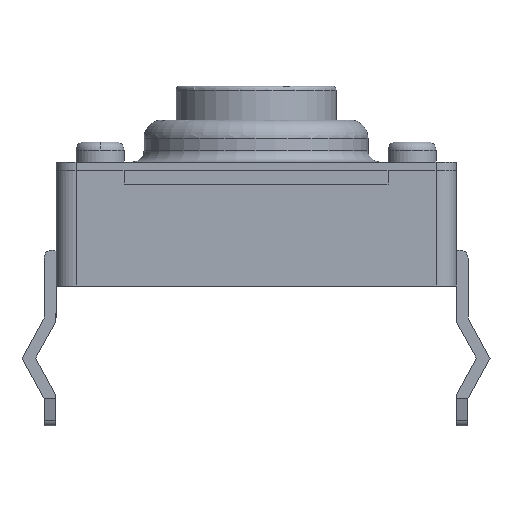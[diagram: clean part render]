
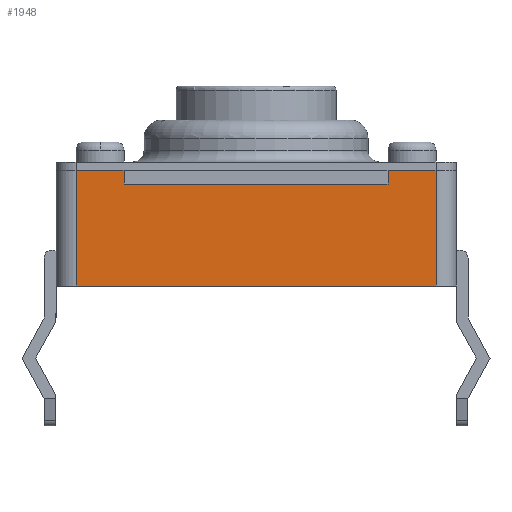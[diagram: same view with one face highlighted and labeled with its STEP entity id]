
A CAD part, front view. The second image highlights one B-rep face of the part: STEP entity #1948.
In plain terms, the highlighted planar face has unit normal (0, -1, 0).
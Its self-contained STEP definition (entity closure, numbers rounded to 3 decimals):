
#312 = DIRECTION ( 'NONE',  ( -1., 0., 0. ) ) ;
#313 = VECTOR ( 'NONE', #312, 1000. ) ;
#314 = CARTESIAN_POINT ( 'NONE',  ( 4.5, -5., 2.3 ) ) ;
#316 = LINE ( 'NONE', #314, #313 ) ;
#487 = DIRECTION ( 'NONE',  ( 0., 0., -1. ) ) ;
#488 = VECTOR ( 'NONE', #487, 1000. ) ;
#489 = CARTESIAN_POINT ( 'NONE',  ( 3.3, -5., 2.65 ) ) ;
#490 = LINE ( 'NONE', #489, #488 ) ;
#583 = DIRECTION ( 'NONE',  ( -1., 0., 0. ) ) ;
#584 = DIRECTION ( 'NONE',  ( 0., 1., 0. ) ) ;
#585 = CARTESIAN_POINT ( 'NONE',  ( 4.5, -5., 2.65 ) ) ;
#586 = AXIS2_PLACEMENT_3D ( 'NONE', #585, #584, #583 ) ;
#588 = PLANE ( 'NONE',  #586 ) ;
#603 = FACE_OUTER_BOUND ( 'NONE', #1868, .T. ) ;
#648 = DIRECTION ( 'NONE',  ( 1., 0., 0. ) ) ;
#649 = VECTOR ( 'NONE', #648, 1000. ) ;
#650 = CARTESIAN_POINT ( 'NONE',  ( 4.5, -5., 2.65 ) ) ;
#651 = LINE ( 'NONE', #650, #649 ) ;
#652 = CARTESIAN_POINT ( 'NONE',  ( 3.3, -5., 2.3 ) ) ;
#653 = DIRECTION ( 'NONE',  ( 0., 0., 1. ) ) ;
#654 = VECTOR ( 'NONE', #653, 1000. ) ;
#655 = CARTESIAN_POINT ( 'NONE',  ( -3.3, -5., 2.65 ) ) ;
#656 = LINE ( 'NONE', #655, #654 ) ;
#1774 = VERTEX_POINT ( 'NONE', #5875 ) ;
#1775 = ORIENTED_EDGE ( 'NONE', *, *, #1776, .F. ) ;
#1776 = EDGE_CURVE ( 'NONE', #4613, #1805, #5874, .T. ) ;
#1777 = ORIENTED_EDGE ( 'NONE', *, *, #4611, .F. ) ;
#1805 = VERTEX_POINT ( 'NONE', #6033 ) ;
#1806 = VERTEX_POINT ( 'NONE', #6032 ) ;
#1808 = ORIENTED_EDGE ( 'NONE', *, *, #4625, .F. ) ;
#1809 = ORIENTED_EDGE ( 'NONE', *, *, #4853, .F. ) ;
#1868 = EDGE_LOOP ( 'NONE', ( #1949, #1950, #1775, #1777, #1808, #1809, #1967, #1918 ) ) ;
#1871 = EDGE_CURVE ( 'NONE', #1966, #1774, #316, .T. ) ;
#1918 = ORIENTED_EDGE ( 'NONE', *, *, #1919, .T. ) ;
#1919 = EDGE_CURVE ( 'NONE', #1806, #1966, #490, .T. ) ;
#1948 = ADVANCED_FACE ( 'NONE', ( #603 ), #588, .F. ) ;
#1949 = ORIENTED_EDGE ( 'NONE', *, *, #1871, .T. ) ;
#1950 = ORIENTED_EDGE ( 'NONE', *, *, #1965, .T. ) ;
#1965 = EDGE_CURVE ( 'NONE', #1774, #1805, #656, .T. ) ;
#1966 = VERTEX_POINT ( 'NONE', #652 ) ;
#1967 = ORIENTED_EDGE ( 'NONE', *, *, #1968, .F. ) ;
#1968 = EDGE_CURVE ( 'NONE', #1806, #4796, #651, .T. ) ;
#3311 = CARTESIAN_POINT ( 'NONE',  ( 4.5, -5., -0.25 ) ) ;
#3321 = CARTESIAN_POINT ( 'NONE',  ( -4.5, -5., 2.65 ) ) ;
#3322 = DIRECTION ( 'NONE',  ( 0., 0., 1. ) ) ;
#3323 = VECTOR ( 'NONE', #3322, 1000. ) ;
#3324 = CARTESIAN_POINT ( 'NONE',  ( -4.5, -5., 2.65 ) ) ;
#3329 = LINE ( 'NONE', #3324, #3323 ) ;
#3351 = DIRECTION ( 'NONE',  ( -1., 0., 0. ) ) ;
#3352 = VECTOR ( 'NONE', #3351, 1000. ) ;
#3353 = CARTESIAN_POINT ( 'NONE',  ( 4.5, -5., -0.25 ) ) ;
#3354 = LINE ( 'NONE', #3353, #3352 ) ;
#3364 = CARTESIAN_POINT ( 'NONE',  ( -4.5, -5., -0.25 ) ) ;
#3841 = CARTESIAN_POINT ( 'NONE',  ( 4.5, -5., 2.65 ) ) ;
#3889 = DIRECTION ( 'NONE',  ( 0., 0., -1. ) ) ;
#3890 = VECTOR ( 'NONE', #3889, 1000. ) ;
#3891 = CARTESIAN_POINT ( 'NONE',  ( 4.5, -5., 2.65 ) ) ;
#3897 = LINE ( 'NONE', #3891, #3890 ) ;
#4611 = EDGE_CURVE ( 'NONE', #4642, #4613, #3329, .T. ) ;
#4613 = VERTEX_POINT ( 'NONE', #3321 ) ;
#4620 = VERTEX_POINT ( 'NONE', #3311 ) ;
#4625 = EDGE_CURVE ( 'NONE', #4620, #4642, #3354, .T. ) ;
#4642 = VERTEX_POINT ( 'NONE', #3364 ) ;
#4796 = VERTEX_POINT ( 'NONE', #3841 ) ;
#4853 = EDGE_CURVE ( 'NONE', #4796, #4620, #3897, .T. ) ;
#5873 = CARTESIAN_POINT ( 'NONE',  ( 4.5, -5., 2.65 ) ) ;
#5874 = LINE ( 'NONE', #5873, #5935 ) ;
#5875 = CARTESIAN_POINT ( 'NONE',  ( -3.3, -5., 2.3 ) ) ;
#5934 = DIRECTION ( 'NONE',  ( 1., 0., 0. ) ) ;
#5935 = VECTOR ( 'NONE', #5934, 1000. ) ;
#6032 = CARTESIAN_POINT ( 'NONE',  ( 3.3, -5., 2.65 ) ) ;
#6033 = CARTESIAN_POINT ( 'NONE',  ( -3.3, -5., 2.65 ) ) ;
